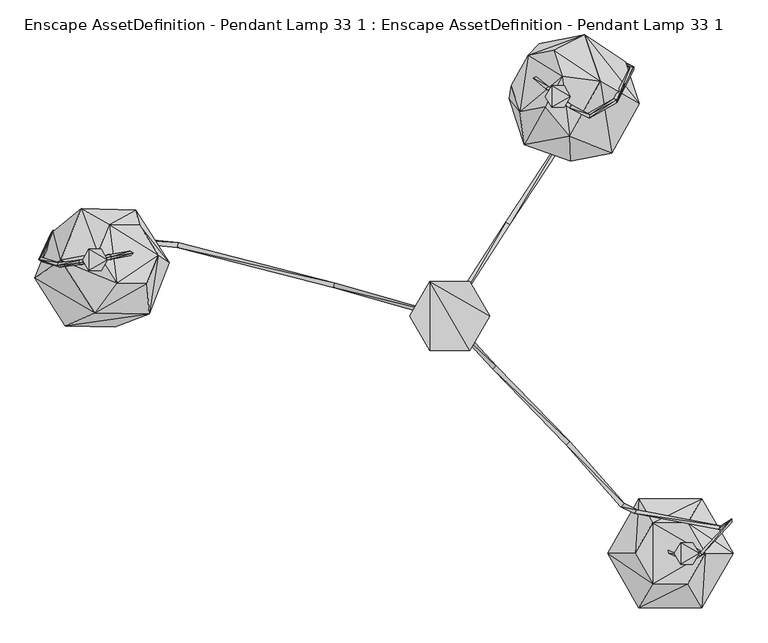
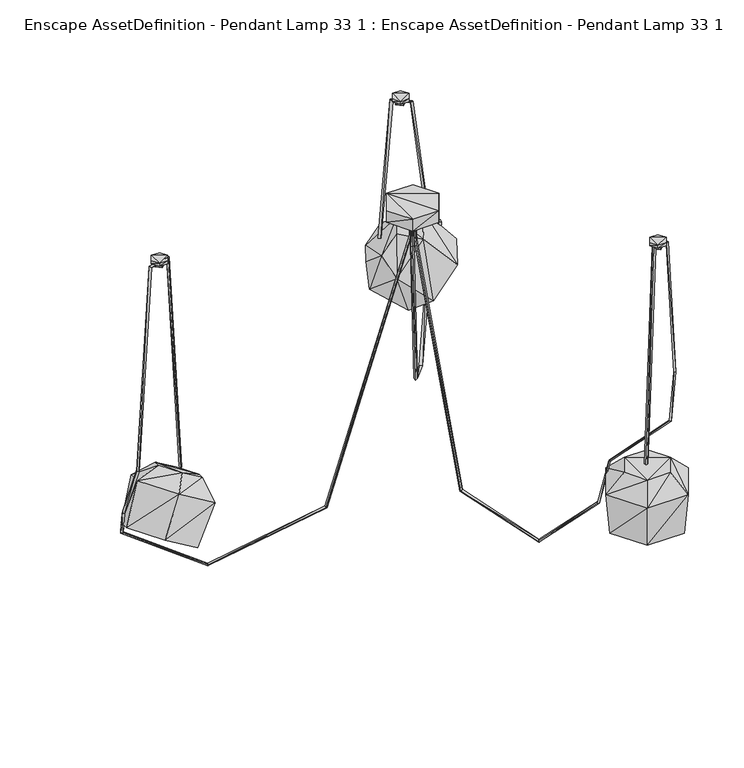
"""IFC4 building model written with IfcOpenShell, lengths in millimetres: geographic element geometry, Enscape AssetDefinition - Pendant Lamp 33 1 : Enscape AssetDefinition - Pendant Lamp 33 1."""

from ifc_helpers import new_model, si_unit, origin, place, context, project, spatial, faceted_brep, source, transform, mapped, element, save


def enscape_assetdefinition_pendant_lamp_33_1_enscape_d2cf4ff0(model_context):
    return source(origin(), model_context, "Body", "Brep", [
        faceted_brep([(513.8088465, -489.9633825, -9.7715128), (501.0457039, -512.0707154, -9.7715128), (475.5183756, -512.0707154, -9.7715128), (501.0457039, -512.0707154, 0.0977151), (513.8088465, -489.9633825, 0.0977151), (475.5183756, -512.0707154, 0.0977151), (475.5183756, -467.8560793, -9.7715128), (462.75419, -489.9633825, -9.7715128), (501.0457039, -467.8560793, 0.0977151), (501.0457039, -467.8560793, -9.7715128), (475.5183756, -467.8560793, 0.0977151), (462.75419, -489.9633825, 0.0977151)], [[[0, 1, 2]], [[3, 1, 4]], [[3, 2, 1]], [[4, 1, 0]], [[5, 2, 3]], [[6, 2, 7]], [[0, 2, 6]], [[5, 7, 2]], [[4, 0, 8]], [[0, 6, 9]], [[8, 0, 9]], [[10, 6, 11]], [[10, 9, 6]], [[11, 6, 7]], [[11, 7, 5]], [[5, 10, 11]], [[5, 3, 4]], [[5, 4, 10]], [[10, 4, 8]], [[8, 9, 10]]]),
        faceted_brep([(503.9544702, -489.9633825, -23.2127719), (488.2815182, -505.6363344, -23.2127719), (472.6086259, -489.9633825, -23.2127719), (488.2815182, -505.6363344, -7.3365313), (503.9544702, -489.9633825, -7.3365313), (472.6086259, -489.9633825, -7.3365313), (488.2815182, -474.2904902, -23.2127719), (488.2815182, -474.2904902, -7.3365313)], [[[0, 1, 2]], [[3, 1, 4]], [[3, 2, 1]], [[4, 1, 0]], [[5, 2, 3]], [[0, 2, 6]], [[5, 6, 2]], [[4, 0, 7]], [[7, 0, 6]], [[5, 3, 4]], [[5, 4, 7]], [[7, 6, 5]]]),
        faceted_brep([(571.5003014, -489.7650182, -921.8474627), (512.9491687, -591.1785364, -921.8474627), (395.8469629, -591.1785364, -921.8474627), (519.1200376, -601.8669605, -789.9103761), (583.8419795, -489.7650182, -789.9103761), (389.6760941, -601.8669605, -789.9103761), (395.8469629, -388.3525133, -921.8474627), (337.2958601, -489.7650182, -921.8474627), (519.1200376, -377.6640594, -789.9103761), (512.9491687, -388.3525133, -921.8474627), (389.6760941, -377.6640594, -789.9103761), (324.9541223, -489.7650182, -789.9103761), (382.1382225, -489.7650182, -735.5747819), (418.2681441, -552.3441434, -735.5747819), (418.2681441, -427.1858931, -735.5747819), (490.5279875, -427.1858931, -735.5747819), (526.6578794, -489.7650182, -735.5747819), (490.5279875, -552.3441434, -735.5747819)], [[[0, 1, 2]], [[3, 1, 4]], [[3, 2, 1]], [[4, 1, 0]], [[5, 2, 3]], [[6, 2, 7]], [[0, 2, 6]], [[5, 7, 2]], [[4, 0, 8]], [[0, 6, 9]], [[8, 0, 9]], [[10, 6, 11]], [[10, 9, 6]], [[11, 6, 7]], [[11, 7, 5]], [[12, 11, 13]], [[12, 10, 11]], [[13, 11, 5]], [[8, 9, 10]], [[14, 10, 12]], [[14, 8, 10]], [[15, 8, 14]], [[15, 4, 8]], [[14, 16, 15]], [[13, 14, 12]], [[13, 16, 14]], [[13, 17, 16]], [[13, 5, 17]], [[16, 4, 15]], [[17, 3, 16]], [[16, 3, 4]], [[17, 5, 3]]]),
        faceted_brep([(81.8596184, 0.2931454, 0.1490403), (81.8596184, 0.2931454, -38.9419459), (40.7590531, 71.4810863, 0.1490403), (-41.441083, -70.8938092, -38.9419459), (40.7590531, 71.4810863, -38.9419459), (40.7590531, -70.8938092, -38.9419459), (-41.441083, 71.4810863, 0.1490403), (40.7590531, -70.8938092, 0.1490403), (-41.441083, -70.8938092, 0.1490403), (-82.5416446, 0.2931454, -38.9419459), (-41.441083, 71.4810863, -38.9419459), (-82.5416446, 0.2931454, 0.1490403)], [[[0, 1, 2]], [[3, 4, 1]], [[3, 1, 5]], [[2, 1, 4]], [[0, 5, 1]], [[2, 4, 6]], [[6, 0, 2]], [[7, 5, 0]], [[6, 7, 0]], [[7, 3, 5]], [[8, 3, 7]], [[3, 9, 10]], [[3, 10, 4]], [[8, 9, 3]], [[6, 4, 10]], [[6, 10, 11]], [[6, 11, 8]], [[6, 8, 7]], [[11, 9, 8]], [[11, 10, 9]]]),
        faceted_brep([(-653.0726552, 73.2745081, -948.1477141), (-691.2013292, -22.8288211, -893.1646347), (-792.3779488, -20.3306694, -834.2592716), (-620.1367378, 3.6322393, -784.4936252), (-577.9909492, 109.8643839, -845.2714682), (-731.9771647, 6.3939258, -719.3798423), (-817.2992468, 174.3741333, -885.3207827), (-855.4269075, 78.2708079, -830.3368092), (-647.6845145, 218.8581973, -840.9374356), (-716.1216736, 171.8759835, -944.226265), (-759.5249414, 221.6198891, -775.8235931), (-801.6707301, 115.3877527, -715.0447965), (-725.7342339, 129.3442398, -698.8853216), (-686.8287921, 68.5002804, -701.3053894), (-702.206552, 188.6474639, -732.8141928), (-639.7735476, 187.1057302, -769.1631317), (-600.8671522, 126.2617707, -771.582365), (-624.3947744, 66.9585541, -737.6534939)], [[[0, 1, 2]], [[3, 1, 4]], [[3, 2, 1]], [[4, 1, 0]], [[5, 2, 3]], [[6, 2, 7]], [[0, 2, 6]], [[5, 7, 2]], [[4, 0, 8]], [[0, 6, 9]], [[8, 0, 9]], [[10, 6, 11]], [[10, 9, 6]], [[11, 6, 7]], [[11, 7, 5]], [[12, 11, 13]], [[12, 10, 11]], [[13, 11, 5]], [[8, 9, 10]], [[14, 10, 12]], [[14, 8, 10]], [[15, 8, 14]], [[15, 4, 8]], [[14, 16, 15]], [[13, 14, 12]], [[13, 16, 14]], [[13, 17, 16]], [[13, 5, 17]], [[16, 4, 15]], [[17, 3, 16]], [[16, 3, 4]], [[17, 5, 3]]]),
        faceted_brep([(389.9623156, 438.1556511, -523.6465335), (333.6280584, 335.6366754, -529.0573239), (249.0205914, 319.4357157, -608.379364), (247.2370416, 371.0983992, -435.0425899), (309.5082343, 484.4213128, -429.0612042), (153.7128091, 353.1898856, -522.7246284), (277.0816088, 508.2716346, -676.8796444), (220.7473665, 405.7526886, -682.2904348), (278.2551944, 579.8356533, -510.7619166), (361.6891205, 524.4726539, -597.5576639), (184.730947, 561.9271398, -598.443985), (122.4597543, 448.6042261, -604.4253707), (126.9694716, 474.8659432, -530.1805735), (144.416064, 421.6023088, -484.5722914), (161.7313623, 538.1271243, -526.8415213), (213.9408588, 548.1246114, -477.8941274), (231.3874662, 494.8600233, -432.2858155), (196.6255456, 431.5988719, -435.6248975)], [[[0, 1, 2]], [[3, 1, 4]], [[3, 2, 1]], [[4, 1, 0]], [[5, 2, 3]], [[6, 2, 7]], [[0, 2, 6]], [[5, 7, 2]], [[4, 0, 8]], [[0, 6, 9]], [[8, 0, 9]], [[10, 6, 11]], [[10, 9, 6]], [[11, 6, 7]], [[11, 7, 5]], [[12, 11, 13]], [[12, 10, 11]], [[13, 11, 5]], [[8, 9, 10]], [[14, 10, 12]], [[14, 8, 10]], [[15, 8, 14]], [[15, 4, 8]], [[14, 16, 15]], [[13, 14, 12]], [[13, 16, 14]], [[13, 17, 16]], [[13, 5, 17]], [[16, 4, 15]], [[17, 3, 16]], [[16, 3, 4]], [[17, 5, 3]]]),
        faceted_brep([(-705.9572935, 115.5979857, -9.7715128), (-718.7214494, 93.4906825, -9.7715128), (-744.2488074, 93.4906825, -9.7715128), (-718.7214494, 93.4906825, 0.0977151), (-705.9572935, 115.5979857, 0.0977151), (-744.2488074, 93.4906825, 0.0977151), (-744.2488074, 137.7052963, -9.7715128), (-757.01195, 115.5979857, -9.7715128), (-718.7214494, 137.7052963, 0.0977151), (-718.7214494, 137.7052963, -9.7715128), (-744.2488074, 137.7052963, 0.0977151), (-757.01195, 115.5979857, 0.0977151)], [[[0, 1, 2]], [[3, 1, 4]], [[3, 2, 1]], [[4, 1, 0]], [[5, 2, 3]], [[6, 2, 7]], [[0, 2, 6]], [[5, 7, 2]], [[4, 0, 8]], [[0, 6, 9]], [[8, 0, 9]], [[10, 6, 11]], [[10, 9, 6]], [[11, 6, 7]], [[11, 7, 5]], [[5, 10, 11]], [[5, 3, 4]], [[5, 4, 10]], [[10, 4, 8]], [[8, 9, 10]]]),
        faceted_brep([(-715.8117294, 115.5979857, -23.2127719), (-731.484592, 99.9250785, -23.2127719), (-747.1575141, 115.5979857, -23.2127719), (-731.484592, 99.9250785, -7.3365313), (-715.8117294, 115.5979857, -7.3365313), (-747.1575141, 115.5979857, -7.3365313), (-731.484592, 131.2709004, -23.2127719), (-731.484592, 131.2709004, -7.3365313)], [[[0, 1, 2]], [[3, 1, 4]], [[3, 2, 1]], [[4, 1, 0]], [[5, 2, 3]], [[0, 2, 6]], [[5, 6, 2]], [[4, 0, 7]], [[7, 0, 6]], [[5, 3, 4]], [[5, 4, 7]], [[7, 6, 5]]]),
        faceted_brep([(248.1164783, 452.7773857, -9.7715128), (235.3523225, 430.6700826, -9.7715128), (209.8259628, 430.6700826, -9.7715128), (235.3523225, 430.6700826, 0.0987021), (248.1164783, 452.7773857, 0.0987021), (209.8259628, 430.6700826, 0.0987021), (209.8259628, 474.8837054, -9.7715128), (197.0618069, 452.7773857, -9.7715128), (235.3523225, 474.8837054, 0.0987021), (235.3523225, 474.8837054, -9.7715128), (209.8259628, 474.8837054, 0.0987021), (197.0618069, 452.7773857, 0.0987021)], [[[0, 1, 2]], [[3, 1, 4]], [[3, 2, 1]], [[4, 1, 0]], [[5, 2, 3]], [[6, 2, 7]], [[0, 2, 6]], [[5, 7, 2]], [[4, 0, 8]], [[0, 6, 9]], [[8, 0, 9]], [[10, 6, 11]], [[10, 9, 6]], [[11, 6, 7]], [[11, 7, 5]], [[5, 10, 11]], [[5, 3, 4]], [[5, 4, 10]], [[10, 4, 8]], [[8, 9, 10]]]),
        faceted_brep([(238.2620573, 452.7773857, -23.2127719), (222.5891501, 437.1034503, -23.2127719), (206.9162279, 452.7773857, -23.2127719), (222.5891501, 437.1034503, -7.3365313), (238.2620573, 452.7773857, -7.3365313), (206.9162279, 452.7773857, -7.3365313), (222.5891501, 468.450278, -23.2127719), (222.5891501, 468.450278, -7.3365313)], [[[0, 1, 2]], [[3, 1, 4]], [[3, 2, 1]], [[4, 1, 0]], [[5, 2, 3]], [[0, 2, 6]], [[5, 6, 2]], [[4, 0, 7]], [[7, 0, 6]], [[5, 3, 4]], [[5, 4, 7]], [[7, 6, 5]]]),
        faceted_brep([(-12.0416628, -6.2360018, -107.0187986), (-9.3510421, 3.2601322, -107.0187986), (-240.3298765, 58.4553629, -968.2385325), (-5.860934, 3.3637693, -35.8229615), (-8.552542, -6.1323647, -35.8229615), (-237.6728058, 67.961365, -968.3638811), (-6.1185462, -2.7853749, -108.3295643), (-2.6294254, -2.6817375, -37.1337235), (-235.0611538, 62.0915517, -972.0168114), (-561.4958405, 141.6977942, -1095.2701569), (-559.8011017, 151.4475942, -1095.9719419), (-561.3536835, 146.5657949, -1101.162672), (-816.0674572, 166.727677, -914.8297906), (-817.9881573, 176.8101007, -913.6315584), (-821.3095069, 171.8444079, -917.2469974), (-841.9501185, 112.4474183, -809.4188571), (-843.6132073, 121.877417, -806.627512), (-847.8001356, 116.1072925, -808.1693053), (-804.3702245, 100.6771848, -675.2510667), (-806.4518571, 110.3203818, -674.5186448), (-810.1887107, 104.4397056, -674.1051078), (-760.9344125, 105.8768108, -16.1713623), (-763.261795, 115.4627651, -15.527823), (-766.5693164, 109.5238626, -10.9263286), (-701.5265822, 116.7518198, -16.1644518), (-702.6813626, 126.5519559, -15.5011732), (-697.501421, 122.1577302, -10.9075755), (-657.4323177, 124.2778525, -729.7810316), (-658.5476995, 134.0848953, -729.7464609), (-653.0963778, 129.7360808, -729.4493914)], [[[0, 1, 2]], [[3, 1, 4]], [[2, 1, 5]], [[6, 5, 1]], [[4, 1, 0]], [[3, 6, 1]], [[4, 0, 7]], [[3, 4, 7]], [[8, 0, 2]], [[0, 8, 6]], [[7, 0, 6]], [[5, 6, 8]], [[7, 6, 3]], [[2, 5, 9]], [[9, 5, 10]], [[8, 10, 5]], [[10, 8, 11]], [[2, 11, 8]], [[9, 10, 12]], [[12, 10, 13]], [[11, 13, 10]], [[11, 2, 9]], [[14, 9, 12]], [[9, 14, 11]], [[13, 11, 14]], [[12, 13, 15]], [[15, 13, 16]], [[14, 16, 13]], [[17, 12, 15]], [[12, 17, 14]], [[16, 14, 17]], [[15, 16, 18]], [[18, 16, 19]], [[17, 19, 16]], [[20, 15, 18]], [[15, 20, 17]], [[19, 17, 20]], [[18, 19, 21]], [[21, 19, 22]], [[20, 22, 19]], [[23, 18, 21]], [[18, 23, 20]], [[22, 20, 23]], [[21, 22, 24]], [[24, 22, 25]], [[23, 25, 22]], [[26, 21, 24]], [[21, 26, 23]], [[25, 23, 26]], [[24, 25, 27]], [[27, 25, 28]], [[26, 28, 25]], [[29, 24, 27]], [[24, 29, 26]], [[28, 26, 29]], [[27, 28, 29]]]),
        faceted_brep([(7.6247412, -7.5408444, -123.457633), (0.3760552, -14.2407473, -123.457633), (95.5821797, -102.714397, -926.3641238), (-1.9385103, -8.8989865, -34.80139), (5.3101759, -2.199084, -34.80139), (88.3473083, -109.4281226, -926.4855385), (0.6938761, -7.3128422, -124.2442951), (-1.6216764, -1.9710821, -35.5880484), (88.912867, -102.7696654, -929.5374155), (247.1156567, -259.1543496, -1051.0258675), (239.8807704, -265.871048, -1051.0723591), (244.0943718, -263.0254328, -1057.1829081), (359.1613472, -386.631161, -885.2576017), (352.2215784, -393.6715722, -885.1549625), (358.8306904, -393.4040964, -887.6886368), (386.3231838, -399.9411166, -748.5522032), (380.3280294, -407.5994194, -745.5121875), (386.5373731, -406.8058729, -749.9636412), (558.2623482, -432.9125881, -657.0928097), (552.7488589, -440.5481815, -653.5809636), (559.0766072, -439.9372041, -658.0038667), (580.7288885, -418.4359312, -508.8362694), (574.3764639, -426.1988699, -508.9369416), (581.3922286, -425.4200757, -508.9892149), (516.9811249, -486.56708, -13.9140431), (511.7647648, -493.6420619, -20.4984639), (517.9444551, -493.4722781, -14.3868262), (468.7542617, -491.3600385, -11.2066427), (476.644516, -496.86566, -20.0552903), (469.9910283, -498.2168674, -12.0090907), (449.5981634, -482.7739596, -737.4393344), (457.7154517, -488.3812368, -737.721622), (450.8526921, -489.6377027, -737.5548482)], [[[0, 1, 2]], [[3, 1, 4]], [[2, 1, 5]], [[6, 5, 1]], [[4, 1, 0]], [[3, 6, 1]], [[4, 0, 7]], [[3, 4, 7]], [[8, 0, 2]], [[0, 8, 6]], [[7, 0, 6]], [[5, 6, 8]], [[7, 6, 3]], [[2, 5, 9]], [[9, 5, 10]], [[8, 10, 5]], [[10, 8, 11]], [[2, 11, 8]], [[9, 10, 12]], [[12, 10, 13]], [[11, 13, 10]], [[11, 2, 9]], [[14, 9, 12]], [[9, 14, 11]], [[13, 11, 14]], [[12, 13, 15]], [[15, 13, 16]], [[14, 16, 13]], [[17, 12, 15]], [[12, 17, 14]], [[16, 14, 17]], [[15, 16, 18]], [[18, 16, 19]], [[17, 19, 16]], [[20, 15, 18]], [[15, 20, 17]], [[19, 17, 20]], [[18, 19, 21]], [[21, 19, 22]], [[20, 22, 19]], [[23, 18, 21]], [[18, 23, 20]], [[22, 20, 23]], [[21, 22, 24]], [[24, 22, 25]], [[23, 25, 22]], [[26, 21, 24]], [[21, 26, 23]], [[25, 23, 26]], [[24, 25, 27]], [[27, 25, 28]], [[26, 28, 25]], [[29, 24, 27]], [[24, 29, 26]], [[28, 26, 29]], [[27, 28, 30]], [[30, 28, 31]], [[29, 31, 28]], [[32, 27, 30]], [[27, 32, 29]], [[31, 29, 32]], [[30, 31, 32]]]),
        faceted_brep([(7.3937788, 25.9458348, -163.7735367), (15.7054868, 20.6208546, -163.7735367), (114.8221865, 193.6388165, -743.2686687), (6.8805269, 2.0174719, -34.5102213), (-1.4301941, 7.3424531, -34.5102213), (123.1230423, 188.2990301, -743.2153225), (9.0322336, 19.3535183, -165.3774232), (0.2072745, 0.7501363, -36.1141302), (116.8031469, 187.5824481, -746.7241883), (239.5827025, 383.7214112, -860.1705432), (247.7088422, 378.1151175, -859.910965), (244.0430522, 381.4078271, -865.9119606), (343.4963226, 527.9153585, -714.2215967), (350.7834971, 521.1572051, -714.7614956), (350.0994742, 528.336823, -716.9191241), (372.0725477, 514.4376159, -552.5800586), (379.2650104, 507.9331398, -554.4179082), (379.2383671, 514.7327185, -552.0628691), (337.5889957, 447.9123354, -453.6420107), (344.4507718, 440.5590296, -453.7673593), (343.764782, 446.5245903, -450.2071738), (281.9949985, 416.015774, -407.5994194), (287.7809405, 408.1195593, -406.3310921), (288.6070609, 415.1600301, -404.4064283), (243.9482808, 437.2939765, -20.4185154), (247.5657314, 429.0760458, -11.3625927), (249.9493957, 435.5627596, -13.8015216), (207.2261572, 466.8641388, -20.9584143), (198.1080621, 468.814522, -12.120625), (203.9206177, 472.5632071, -14.4657874), (181.7866564, 488.1492555, -479.1120887), (172.2007245, 490.4154837, -478.4794152), (178.1366467, 494.0822423, -478.6768258)], [[[0, 1, 2]], [[3, 1, 4]], [[2, 1, 5]], [[6, 5, 1]], [[4, 1, 0]], [[3, 6, 1]], [[4, 0, 7]], [[3, 4, 7]], [[8, 0, 2]], [[0, 8, 6]], [[7, 0, 6]], [[5, 6, 8]], [[7, 6, 3]], [[2, 5, 9]], [[9, 5, 10]], [[8, 10, 5]], [[10, 8, 11]], [[2, 11, 8]], [[9, 10, 12]], [[12, 10, 13]], [[11, 13, 10]], [[11, 2, 9]], [[14, 9, 12]], [[9, 14, 11]], [[13, 11, 14]], [[12, 13, 15]], [[15, 13, 16]], [[14, 16, 13]], [[17, 12, 15]], [[12, 17, 14]], [[16, 14, 17]], [[15, 16, 18]], [[18, 16, 19]], [[17, 19, 16]], [[20, 15, 18]], [[15, 20, 17]], [[19, 17, 20]], [[18, 19, 21]], [[21, 19, 22]], [[20, 22, 19]], [[23, 18, 21]], [[18, 23, 20]], [[22, 20, 23]], [[21, 22, 24]], [[24, 22, 25]], [[23, 25, 22]], [[26, 21, 24]], [[21, 26, 23]], [[25, 23, 26]], [[24, 25, 27]], [[27, 25, 28]], [[26, 28, 25]], [[29, 24, 27]], [[24, 29, 26]], [[28, 26, 29]], [[27, 28, 30]], [[30, 28, 31]], [[29, 31, 28]], [[32, 27, 30]], [[27, 32, 29]], [[31, 29, 32]], [[30, 31, 32]]]),
    ])


if __name__ == "__main__":
    model = new_model("IFC4")
    model_context = context("Model", 3, world=origin())
    ifc_project = project(units=[si_unit("LENGTHUNIT", "METRE", prefix="MILLI")], contexts=[model_context])
    site = spatial("IfcSite", under=ifc_project)
    building = spatial("IfcBuilding", under=site)
    placement = place(None, origin())
    enscape_assetdefinition_pendant_lamp_33_1_enscape_shape = enscape_assetdefinition_pendant_lamp_33_1_enscape_d2cf4ff0(model_context)
    element("IfcGeographicElement", 1, ObjectType="Enscape AssetDefinition - Pendant Lamp 33 1 : Enscape AssetDefinition - Pendant Lamp 33 1", at=placement, inside=building, context=model_context, shape_type="MappedRepresentation", body=[
        mapped(enscape_assetdefinition_pendant_lamp_33_1_enscape_shape, transform((0.0, 0.0, 0.0), x_axis=(1.0, 0.0, 0.0), y_axis=(0.0, 1.0, 0.0), z_axis=(0.0, 0.0, 1.0))),
    ])
    save(model, "model.ifc")
